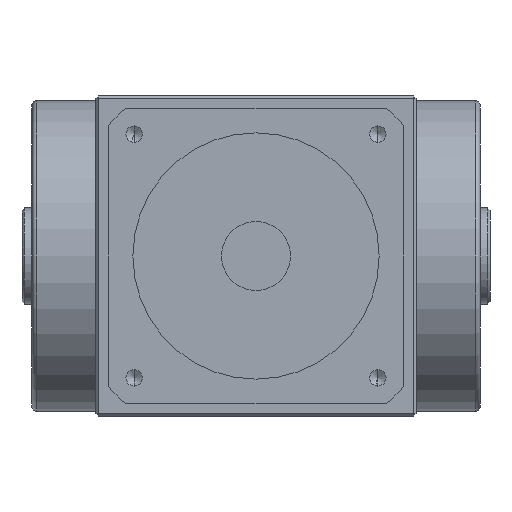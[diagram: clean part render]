
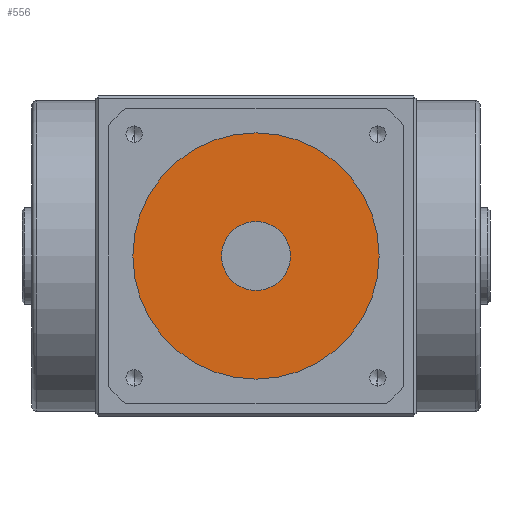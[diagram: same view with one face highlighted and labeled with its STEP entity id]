
A CAD part, front view. The second image highlights one B-rep face of the part: STEP entity #556.
In plain terms, the highlighted planar face has unit normal (0, -1, 0).
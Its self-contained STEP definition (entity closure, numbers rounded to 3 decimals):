
#101 = FACE_OUTER_BOUND ( 'NONE', #2978, .T. ) ;
#325 = CARTESIAN_POINT ( 'NONE',  ( 0., -114., -25. ) ) ;
#343 = DIRECTION ( 'NONE',  ( 0., 0., -1. ) ) ;
#556 = ADVANCED_FACE ( 'NONE', ( #101, #6206 ), #6365, .T. ) ;
#671 = EDGE_LOOP ( 'NONE', ( #6742, #3120 ) ) ;
#704 = CARTESIAN_POINT ( 'NONE',  ( 0., -114., 25. ) ) ;
#934 = CARTESIAN_POINT ( 'NONE',  ( 0., -114., 0. ) ) ;
#1153 = EDGE_CURVE ( 'NONE', #8289, #6261, #5423, .T. ) ;
#1892 = CIRCLE ( 'NONE', #2921, 7. ) ;
#1922 = AXIS2_PLACEMENT_3D ( 'NONE', #3558, #2213, #7047 ) ;
#2213 = DIRECTION ( 'NONE',  ( 0., -1., 0. ) ) ;
#2749 = CARTESIAN_POINT ( 'NONE',  ( 0., -114., -7. ) ) ;
#2921 = AXIS2_PLACEMENT_3D ( 'NONE', #5699, #6364, #8458 ) ;
#2978 = EDGE_LOOP ( 'NONE', ( #5470, #8772 ) ) ;
#3120 = ORIENTED_EDGE ( 'NONE', *, *, #3432, .T. ) ;
#3213 = CIRCLE ( 'NONE', #4250, 25. ) ;
#3432 = EDGE_CURVE ( 'NONE', #6231, #7717, #6505, .T. ) ;
#3558 = CARTESIAN_POINT ( 'NONE',  ( 0., -114., 0. ) ) ;
#3728 = DIRECTION ( 'NONE',  ( 0., 1., 0. ) ) ;
#4128 = DIRECTION ( 'NONE',  ( 0., -1., 0. ) ) ;
#4250 = AXIS2_PLACEMENT_3D ( 'NONE', #5529, #4128, #6194 ) ;
#5063 = CARTESIAN_POINT ( 'NONE',  ( 0., -114., 7. ) ) ;
#5423 = CIRCLE ( 'NONE', #7174, 25. ) ;
#5470 = ORIENTED_EDGE ( 'NONE', *, *, #6031, .T. ) ;
#5529 = CARTESIAN_POINT ( 'NONE',  ( 0., -114., 0. ) ) ;
#5699 = CARTESIAN_POINT ( 'NONE',  ( 0., -114., 0. ) ) ;
#5998 = CARTESIAN_POINT ( 'NONE',  ( 0., -114., 0. ) ) ;
#6031 = EDGE_CURVE ( 'NONE', #6261, #8289, #3213, .T. ) ;
#6194 = DIRECTION ( 'NONE',  ( 0., 0., -1. ) ) ;
#6206 = FACE_BOUND ( 'NONE', #671, .T. ) ;
#6231 = VERTEX_POINT ( 'NONE', #5063 ) ;
#6261 = VERTEX_POINT ( 'NONE', #325 ) ;
#6364 = DIRECTION ( 'NONE',  ( 0., 1., 0. ) ) ;
#6365 = PLANE ( 'NONE',  #1922 ) ;
#6505 = CIRCLE ( 'NONE', #7673, 7. ) ;
#6659 = EDGE_CURVE ( 'NONE', #7717, #6231, #1892, .T. ) ;
#6742 = ORIENTED_EDGE ( 'NONE', *, *, #6659, .T. ) ;
#7047 = DIRECTION ( 'NONE',  ( 0., 0., -1. ) ) ;
#7174 = AXIS2_PLACEMENT_3D ( 'NONE', #5998, #8742, #8769 ) ;
#7673 = AXIS2_PLACEMENT_3D ( 'NONE', #934, #3728, #343 ) ;
#7717 = VERTEX_POINT ( 'NONE', #2749 ) ;
#8289 = VERTEX_POINT ( 'NONE', #704 ) ;
#8458 = DIRECTION ( 'NONE',  ( 0., 0., -1. ) ) ;
#8742 = DIRECTION ( 'NONE',  ( 0., -1., 0. ) ) ;
#8769 = DIRECTION ( 'NONE',  ( 0., 0., -1. ) ) ;
#8772 = ORIENTED_EDGE ( 'NONE', *, *, #1153, .T. ) ;
